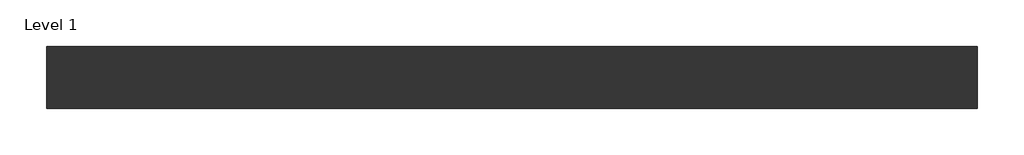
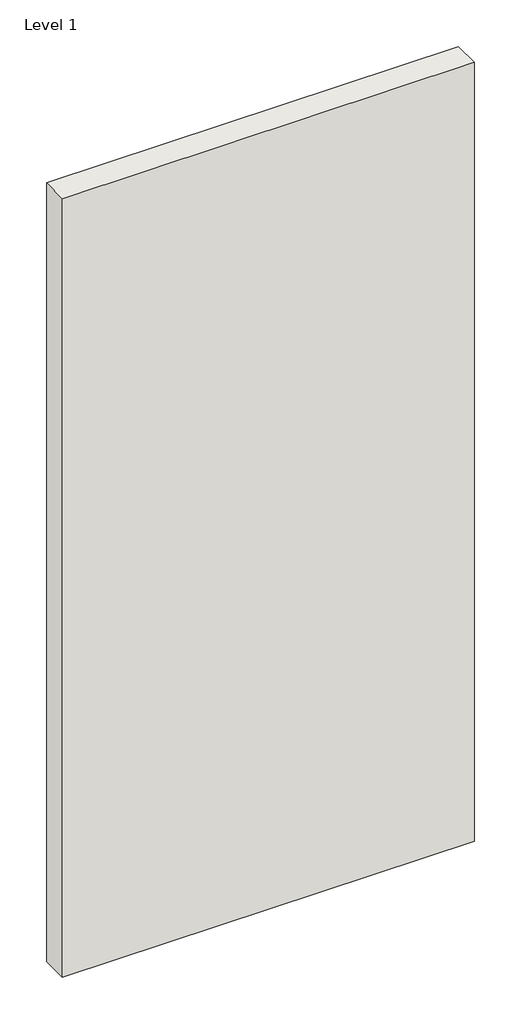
# One storey: 1 wall.
"""IFC4 building model written with IfcOpenShell, lengths in millimetres."""

from ifc_helpers import new_model, si_unit, origin, origin_with_axes, place, context, project, spatial, polyline, outline, extrude, element, save

model = new_model("IFC4")

# Units and contexts
model_context = context("Model", 3, world=origin())
ifc_project = project(units=[si_unit("LENGTHUNIT", "METRE", prefix="MILLI")], contexts=[model_context])

# Site, building, storey
site = spatial("IfcSite", under=ifc_project)
building = spatial("IfcBuilding", under=site)
storey = spatial("IfcBuildingStorey", under=building, Name="Level 1", Elevation=0.0)

# Wall
placement = place(None, origin())
element("IfcWall", 1, ObjectType="Generic - 8\"", at=placement, inside=storey, context=model_context, shape_type="SweptSolid", body=[
    extrude(outline(polyline([(260.6141203, 430.6469629), (-2787.3858797, 430.6469629), (-2787.3858797, 633.8469629), (260.6141203, 633.8469629), (260.6141203, 430.6469629)])), origin_with_axes(), (0.0, 0.0, 1.0), 6096.0),
])

save(model, "model.ifc")
